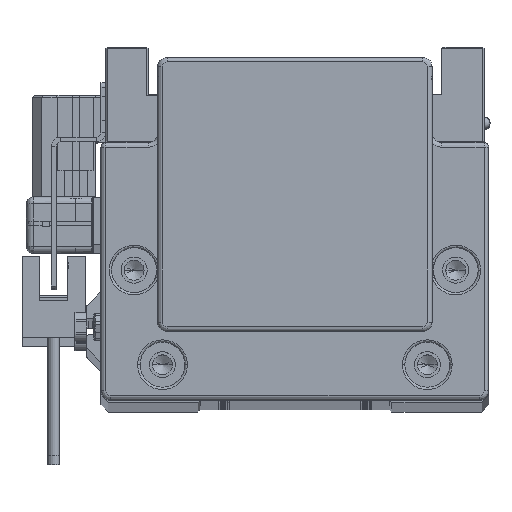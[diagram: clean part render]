
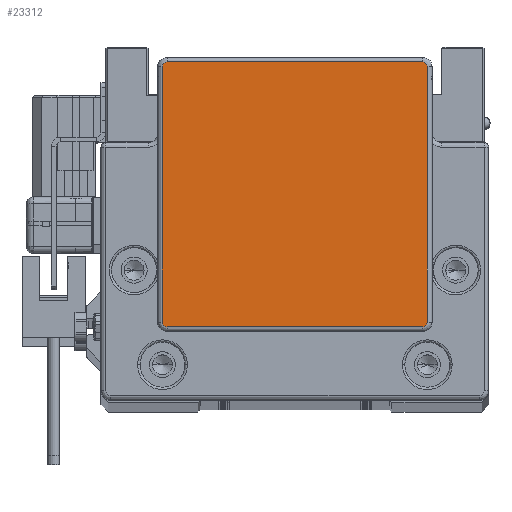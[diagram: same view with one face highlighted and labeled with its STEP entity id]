
A CAD part, top view. The second image highlights one B-rep face of the part: STEP entity #23312.
In plain terms, the highlighted planar face has unit normal (0, 0, 1).
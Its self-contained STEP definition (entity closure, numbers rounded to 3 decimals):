
#1075 = ORIENTED_EDGE ( 'NONE', *, *, #7487, .T. ) ;
#2781 = CARTESIAN_POINT ( 'NONE',  ( 27., -20.75, 17. ) ) ;
#4403 = CARTESIAN_POINT ( 'NONE',  ( 27., -19.75, 17. ) ) ;
#4447 = CARTESIAN_POINT ( 'NONE',  ( -27., -19.75, 17. ) ) ;
#6353 = EDGE_CURVE ( 'NONE', #52034, #52157, #40025, .T. ) ;
#6448 = LINE ( 'NONE', #42880, #33994 ) ;
#6990 = CARTESIAN_POINT ( 'NONE',  ( -27., 34.25, 17. ) ) ;
#7487 = EDGE_CURVE ( 'NONE', #39031, #52034, #42374, .T. ) ;
#8360 = CARTESIAN_POINT ( 'NONE',  ( -27., -20.75, 17. ) ) ;
#11499 = DIRECTION ( 'NONE',  ( -1., 0., 0. ) ) ;
#14412 = CIRCLE ( 'NONE', #55417, 1. ) ;
#15190 = DIRECTION ( 'NONE',  ( 1., 0., 0. ) ) ;
#15732 = ORIENTED_EDGE ( 'NONE', *, *, #29809, .T. ) ;
#16438 = ORIENTED_EDGE ( 'NONE', *, *, #6353, .T. ) ;
#17669 = EDGE_CURVE ( 'NONE', #30853, #38780, #36761, .T. ) ;
#18137 = DIRECTION ( 'NONE',  ( 0., 0., 1. ) ) ;
#18686 = EDGE_CURVE ( 'NONE', #58021, #42386, #53006, .T. ) ;
#18746 = CIRCLE ( 'NONE', #42565, 1. ) ;
#19170 = VECTOR ( 'NONE', #15190, 1000. ) ;
#20545 = CARTESIAN_POINT ( 'NONE',  ( -27., -19.75, 17. ) ) ;
#20821 = EDGE_CURVE ( 'NONE', #38780, #39031, #14412, .T. ) ;
#21726 = AXIS2_PLACEMENT_3D ( 'NONE', #31025, #18137, #22353 ) ;
#22308 = CARTESIAN_POINT ( 'NONE',  ( -27., 35.25, 17. ) ) ;
#22353 = DIRECTION ( 'NONE',  ( 1., 0., 0. ) ) ;
#22358 = CARTESIAN_POINT ( 'NONE',  ( 27., 35.25, 17. ) ) ;
#23312 = ADVANCED_FACE ( 'NONE', ( #46810 ), #29206, .T. ) ;
#23802 = DIRECTION ( 'NONE',  ( 1., 0., 0. ) ) ;
#24245 = CARTESIAN_POINT ( 'NONE',  ( -28., -19.75, 17. ) ) ;
#24680 = DIRECTION ( 'NONE',  ( 0., 1., 0. ) ) ;
#25717 = ORIENTED_EDGE ( 'NONE', *, *, #20821, .T. ) ;
#26504 = CIRCLE ( 'NONE', #21726, 1. ) ;
#27447 = DIRECTION ( 'NONE',  ( 1., 0., 0. ) ) ;
#28953 = CARTESIAN_POINT ( 'NONE',  ( 28., 34.25, 17. ) ) ;
#29206 = PLANE ( 'NONE',  #44893 ) ;
#29809 = EDGE_CURVE ( 'NONE', #52157, #51525, #6448, .T. ) ;
#30253 = EDGE_CURVE ( 'NONE', #42386, #30853, #18746, .T. ) ;
#30853 = VERTEX_POINT ( 'NONE', #33186 ) ;
#30877 = DIRECTION ( 'NONE',  ( 1., 0., 0. ) ) ;
#31025 = CARTESIAN_POINT ( 'NONE',  ( 27., 34.25, 17. ) ) ;
#31421 = VECTOR ( 'NONE', #55847, 1000. ) ;
#31621 = DIRECTION ( 'NONE',  ( 0., 0., 1. ) ) ;
#32003 = CARTESIAN_POINT ( 'NONE',  ( -28., -19.75, 17. ) ) ;
#33077 = ORIENTED_EDGE ( 'NONE', *, *, #44610, .T. ) ;
#33186 = CARTESIAN_POINT ( 'NONE',  ( -28., 34.25, 17. ) ) ;
#33742 = CARTESIAN_POINT ( 'NONE',  ( 27., -20.75, 17. ) ) ;
#33994 = VECTOR ( 'NONE', #24680, 1000. ) ;
#36429 = DIRECTION ( 'NONE',  ( 0., 0., 1. ) ) ;
#36761 = LINE ( 'NONE', #32003, #31421 ) ;
#37236 = VECTOR ( 'NONE', #11499, 1000. ) ;
#38780 = VERTEX_POINT ( 'NONE', #24245 ) ;
#39031 = VERTEX_POINT ( 'NONE', #8360 ) ;
#40025 = CIRCLE ( 'NONE', #55263, 1. ) ;
#41815 = ORIENTED_EDGE ( 'NONE', *, *, #30253, .T. ) ;
#42374 = LINE ( 'NONE', #33742, #19170 ) ;
#42386 = VERTEX_POINT ( 'NONE', #22308 ) ;
#42565 = AXIS2_PLACEMENT_3D ( 'NONE', #6990, #43692, #30877 ) ;
#42880 = CARTESIAN_POINT ( 'NONE',  ( 28., 34.25, 17. ) ) ;
#43692 = DIRECTION ( 'NONE',  ( 0., 0., 1. ) ) ;
#43756 = ORIENTED_EDGE ( 'NONE', *, *, #18686, .T. ) ;
#44610 = EDGE_CURVE ( 'NONE', #51525, #58021, #26504, .T. ) ;
#44893 = AXIS2_PLACEMENT_3D ( 'NONE', #20545, #46507, #55771 ) ;
#46507 = DIRECTION ( 'NONE',  ( 0., 0., 1. ) ) ;
#46810 = FACE_OUTER_BOUND ( 'NONE', #47586, .T. ) ;
#47586 = EDGE_LOOP ( 'NONE', ( #43756, #41815, #58350, #25717, #1075, #16438, #15732, #33077 ) ) ;
#51525 = VERTEX_POINT ( 'NONE', #28953 ) ;
#52034 = VERTEX_POINT ( 'NONE', #2781 ) ;
#52157 = VERTEX_POINT ( 'NONE', #53553 ) ;
#53006 = LINE ( 'NONE', #57179, #37236 ) ;
#53553 = CARTESIAN_POINT ( 'NONE',  ( 28., -19.75, 17. ) ) ;
#55263 = AXIS2_PLACEMENT_3D ( 'NONE', #4403, #31621, #23802 ) ;
#55417 = AXIS2_PLACEMENT_3D ( 'NONE', #4447, #36429, #27447 ) ;
#55771 = DIRECTION ( 'NONE',  ( 1., 0., 0. ) ) ;
#55847 = DIRECTION ( 'NONE',  ( 0., -1., 0. ) ) ;
#57179 = CARTESIAN_POINT ( 'NONE',  ( -27., 35.25, 17. ) ) ;
#58021 = VERTEX_POINT ( 'NONE', #22358 ) ;
#58350 = ORIENTED_EDGE ( 'NONE', *, *, #17669, .T. ) ;
